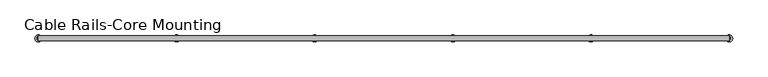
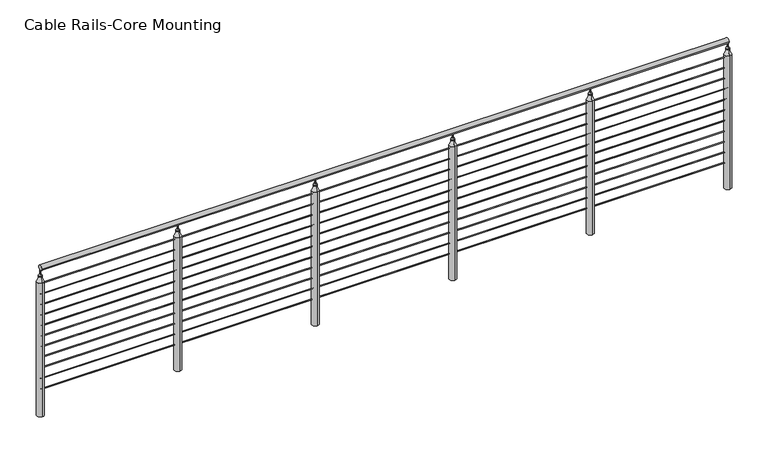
"""IFC4 building model written with IfcOpenShell, lengths in millimetres: railing geometry, Cable Rails-Core Mounting."""

from ifc_helpers import new_model, si_unit, point, frame, frame_2d, origin, place, context, project, spatial, circle_curve, ellipse_curve, trimmed, segment, composite_curve, outline, extrude, source, transform, mapped, element, save
from ifc_brep_helpers import plane_surface, cylinder_surface, revolved_surface, advanced_brep


def cable_rails_core_mounting_1b3b6cc5(model_context):
    return source(origin(), model_context, "Body", "SolidModel", [
        extrude(outline(composite_curve([segment(trimmed(circle_curve(frame_2d((-1356.8150713, 4140.2)), 19.05), [point((-1375.8650713, 4140.2))], [point((-1337.7650713, 4140.2))], False, "CARTESIAN"), True, "CONTINUOUS"), segment(trimmed(circle_curve(frame_2d((-1356.8150713, 4140.2)), 19.05), [point((-1337.7650713, 4140.2))], [point((-1375.8650713, 4140.2))], False, "CARTESIAN"), True, "CONTINUOUS")], self_intersect=False)), frame((-10554.5970616, 0.0, 0.0), z_axis=(1.0, 0.0, 0.0), x_axis=(0.0, 1.0, 0.0)), (0.0, 0.0, 1.0), 5080.0),
        extrude(outline(composite_curve([segment(trimmed(circle_curve(frame_2d((-1356.8150713, 4016.375)), 3.175), [point((-1359.9900713, 4016.375))], [point((-1353.6400713, 4016.375))], False, "CARTESIAN"), True, "CONTINUOUS"), segment(trimmed(circle_curve(frame_2d((-1356.8150713, 4016.375)), 3.175), [point((-1353.6400713, 4016.375))], [point((-1359.9900713, 4016.375))], False, "CARTESIAN"), True, "CONTINUOUS")], self_intersect=False)), frame((-10554.5970616, 0.0, 0.0), z_axis=(1.0, 0.0, 0.0), x_axis=(0.0, 1.0, 0.0)), (0.0, 0.0, 1.0), 5080.0),
        extrude(outline(composite_curve([segment(trimmed(circle_curve(frame_2d((-1356.8150713, 3933.825)), 3.175), [point((-1359.9900713, 3933.825))], [point((-1353.6400713, 3933.825))], False, "CARTESIAN"), True, "CONTINUOUS"), segment(trimmed(circle_curve(frame_2d((-1356.8150713, 3933.825)), 3.175), [point((-1353.6400713, 3933.825))], [point((-1359.9900713, 3933.825))], False, "CARTESIAN"), True, "CONTINUOUS")], self_intersect=False)), frame((-10554.5970616, 0.0, 0.0), z_axis=(1.0, 0.0, 0.0), x_axis=(0.0, 1.0, 0.0)), (0.0, 0.0, 1.0), 5080.0),
        extrude(outline(composite_curve([segment(trimmed(circle_curve(frame_2d((-1356.8150713, 3851.275)), 3.175), [point((-1359.9900713, 3851.275))], [point((-1353.6400713, 3851.275))], False, "CARTESIAN"), True, "CONTINUOUS"), segment(trimmed(circle_curve(frame_2d((-1356.8150713, 3851.275)), 3.175), [point((-1353.6400713, 3851.275))], [point((-1359.9900713, 3851.275))], False, "CARTESIAN"), True, "CONTINUOUS")], self_intersect=False)), frame((-10554.5970616, 0.0, 0.0), z_axis=(1.0, 0.0, 0.0), x_axis=(0.0, 1.0, 0.0)), (0.0, 0.0, 1.0), 5080.0),
        extrude(outline(composite_curve([segment(trimmed(circle_curve(frame_2d((-1356.8150713, 3768.725)), 3.175), [point((-1359.9900713, 3768.725))], [point((-1353.6400713, 3768.725))], False, "CARTESIAN"), True, "CONTINUOUS"), segment(trimmed(circle_curve(frame_2d((-1356.8150713, 3768.725)), 3.175), [point((-1353.6400713, 3768.725))], [point((-1359.9900713, 3768.725))], False, "CARTESIAN"), True, "CONTINUOUS")], self_intersect=False)), frame((-10554.5970616, 0.0, 0.0), z_axis=(1.0, 0.0, 0.0), x_axis=(0.0, 1.0, 0.0)), (0.0, 0.0, 1.0), 5080.0),
        extrude(outline(composite_curve([segment(trimmed(circle_curve(frame_2d((-1356.8150713, 3686.175)), 3.175), [point((-1359.9900713, 3686.175))], [point((-1353.6400713, 3686.175))], False, "CARTESIAN"), True, "CONTINUOUS"), segment(trimmed(circle_curve(frame_2d((-1356.8150713, 3686.175)), 3.175), [point((-1353.6400713, 3686.175))], [point((-1359.9900713, 3686.175))], False, "CARTESIAN"), True, "CONTINUOUS")], self_intersect=False)), frame((-10554.5970616, 0.0, 0.0), z_axis=(1.0, 0.0, 0.0), x_axis=(0.0, 1.0, 0.0)), (0.0, 0.0, 1.0), 5080.0),
        extrude(outline(composite_curve([segment(trimmed(circle_curve(frame_2d((-1356.8150713, 3603.625)), 3.175), [point((-1359.9900713, 3603.625))], [point((-1353.6400713, 3603.625))], False, "CARTESIAN"), True, "CONTINUOUS"), segment(trimmed(circle_curve(frame_2d((-1356.8150713, 3603.625)), 3.175), [point((-1353.6400713, 3603.625))], [point((-1359.9900713, 3603.625))], False, "CARTESIAN"), True, "CONTINUOUS")], self_intersect=False)), frame((-10554.5970616, 0.0, 0.0), z_axis=(1.0, 0.0, 0.0), x_axis=(0.0, 1.0, 0.0)), (0.0, 0.0, 1.0), 5080.0),
        extrude(outline(composite_curve([segment(trimmed(circle_curve(frame_2d((-1356.8150713, 3521.075)), 3.175), [point((-1359.9900713, 3521.075))], [point((-1353.6400713, 3521.075))], False, "CARTESIAN"), True, "CONTINUOUS"), segment(trimmed(circle_curve(frame_2d((-1356.8150713, 3521.075)), 3.175), [point((-1353.6400713, 3521.075))], [point((-1359.9900713, 3521.075))], False, "CARTESIAN"), True, "CONTINUOUS")], self_intersect=False)), frame((-10554.5970616, 0.0, 0.0), z_axis=(1.0, 0.0, 0.0), x_axis=(0.0, 1.0, 0.0)), (0.0, 0.0, 1.0), 5080.0),
        extrude(outline(composite_curve([segment(trimmed(circle_curve(frame_2d((-1356.8150713, 3438.525)), 3.175), [point((-1359.9900713, 3438.525))], [point((-1353.6400713, 3438.525))], False, "CARTESIAN"), True, "CONTINUOUS"), segment(trimmed(circle_curve(frame_2d((-1356.8150713, 3438.525)), 3.175), [point((-1353.6400713, 3438.525))], [point((-1359.9900713, 3438.525))], False, "CARTESIAN"), True, "CONTINUOUS")], self_intersect=False)), frame((-10554.5970616, 0.0, 0.0), z_axis=(1.0, 0.0, 0.0), x_axis=(0.0, 1.0, 0.0)), (0.0, 0.0, 1.0), 5080.0),
        extrude(outline(composite_curve([segment(trimmed(circle_curve(frame_2d((-1356.8150713, 3355.975)), 3.175), [point((-1359.9900713, 3355.975))], [point((-1353.6400713, 3355.975))], False, "CARTESIAN"), True, "CONTINUOUS"), segment(trimmed(circle_curve(frame_2d((-1356.8150713, 3355.975)), 3.175), [point((-1353.6400713, 3355.975))], [point((-1359.9900713, 3355.975))], False, "CARTESIAN"), True, "CONTINUOUS")], self_intersect=False)), frame((-10554.5970616, 0.0, 0.0), z_axis=(1.0, 0.0, 0.0), x_axis=(0.0, 1.0, 0.0)), (0.0, 0.0, 1.0), 5080.0),
        extrude(outline(composite_curve([segment(trimmed(circle_curve(frame_2d((-1356.8150713, 3273.425)), 3.175), [point((-1359.9900713, 3273.425))], [point((-1353.6400713, 3273.425))], False, "CARTESIAN"), True, "CONTINUOUS"), segment(trimmed(circle_curve(frame_2d((-1356.8150713, 3273.425)), 3.175), [point((-1353.6400713, 3273.425))], [point((-1359.9900713, 3273.425))], False, "CARTESIAN"), True, "CONTINUOUS")], self_intersect=False)), frame((-10554.5970616, 0.0, 0.0), z_axis=(1.0, 0.0, 0.0), x_axis=(0.0, 1.0, 0.0)), (0.0, 0.0, 1.0), 5080.0),
        extrude(outline(composite_curve([segment(trimmed(circle_curve(frame_2d((-1356.8150713, 3190.875)), 3.175), [point((-1359.9900713, 3190.875))], [point((-1353.6400713, 3190.875))], False, "CARTESIAN"), True, "CONTINUOUS"), segment(trimmed(circle_curve(frame_2d((-1356.8150713, 3190.875)), 3.175), [point((-1353.6400713, 3190.875))], [point((-1359.9900713, 3190.875))], False, "CARTESIAN"), True, "CONTINUOUS")], self_intersect=False)), frame((-10554.5970616, 0.0, 0.0), z_axis=(1.0, 0.0, 0.0), x_axis=(0.0, 1.0, 0.0)), (0.0, 0.0, 1.0), 5080.0),
        advanced_brep(
        [(-6490.2001866, -1331.4156735, 4033.5847854), (-6490.2001866, -1331.4156735, 2990.85), (-6490.2001866, -1382.2144691, 2990.85), (-6490.2001866, -1382.2144691, 4033.5847854), (-6490.2001866, -1344.0771027, 4071.7986202), (-6490.2001866, -1369.5530398, 4071.7986202), (-6490.2001866, -1344.0771027, 4080.7816777), (-6490.2001866, -1369.5530398, 4080.7816777), (-6490.2001866, -1353.215569, 4089.7402749), (-6490.2001866, -1360.4145735, 4089.7402749), (-6490.2001866, -1353.215569, 4121.15), (-6490.2001866, -1360.4145735, 4121.15), (-6490.2001866, -1356.8150713, 4121.15), (-6490.2001866, -1356.8150713, 2990.85)],
        [
            (0, 1),
            (1, 2, circle_curve(frame((-6490.2001866, -1356.8150713, 2990.85), z_axis=(0.0, 0.0, 1.0), x_axis=(0.0, -1.0, 0.0)), 25.3993978)),
            (2, 3),
            (3, 0, circle_curve(frame((-6490.2001866, -1356.8150713, 4033.5847854), z_axis=(0.0, 0.0, -1.0), x_axis=(0.0, -1.0, 0.0)), 25.3993978)),
            (2, 1, circle_curve(frame((-6490.2001866, -1356.8150713, 2990.85), z_axis=(0.0, 0.0, 1.0), x_axis=(0.0, -1.0, 0.0)), 25.3993978)),
            (0, 3, circle_curve(frame((-6490.2001866, -1356.8150713, 4033.5847854), z_axis=(0.0, 0.0, -1.0), x_axis=(0.0, -1.0, 0.0)), 25.3993978)),
            (4, 0, circle_curve(frame((-6490.2001866, -1280.0792344, 4071.7986202), z_axis=(1.0, 0.0, 0.0), x_axis=(0.0, 1.0, 0.0)), 63.9978683)),
            (3, 5, circle_curve(frame((-6490.2001866, -1433.5509081, 4071.7986202), z_axis=(1.0, 0.0, 0.0), x_axis=(0.0, -1.0, 0.0)), 63.9978683)),
            (5, 4, circle_curve(frame((-6490.2001866, -1356.8150713, 4071.7986202), z_axis=(0.0, 0.0, -1.0), x_axis=(0.0, -1.0, 0.0)), 12.7379685)),
            (4, 5, circle_curve(frame((-6490.2001866, -1356.8150713, 4071.7986202), z_axis=(0.0, 0.0, -1.0), x_axis=(0.0, -1.0, 0.0)), 12.7379685)),
            (6, 4),
            (5, 7),
            (7, 6, circle_curve(frame((-6490.2001866, -1356.8150713, 4080.7816777), z_axis=(0.0, 0.0, -1.0), x_axis=(0.0, -1.0, 0.0)), 12.7379685)),
            (6, 7, circle_curve(frame((-6490.2001866, -1356.8150713, 4080.7816777), z_axis=(0.0, 0.0, -1.0), x_axis=(0.0, -1.0, 0.0)), 12.7379685)),
            (8, 6, circle_curve(frame((-6490.2001866, -1356.8551971, 4076.8872989), z_axis=(-1.0, 0.0, 0.0), x_axis=(0.0, 1.0, 0.0)), 13.3583638)),
            (7, 9, circle_curve(frame((-6490.2001866, -1356.7749454, 4076.8872989), z_axis=(-1.0, 0.0, 0.0), x_axis=(0.0, -1.0, 0.0)), 13.3583638)),
            (9, 8, circle_curve(frame((-6490.2001866, -1356.8150713, 4089.7402749), z_axis=(0.0, 0.0, -1.0), x_axis=(0.0, -1.0, 0.0)), 3.5995022)),
            (8, 9, circle_curve(frame((-6490.2001866, -1356.8150713, 4089.7402749), z_axis=(0.0, 0.0, -1.0), x_axis=(0.0, -1.0, 0.0)), 3.5995022)),
            (10, 8),
            (9, 11),
            (11, 10, circle_curve(frame((-6490.2001866, -1356.8150713, 4121.15), z_axis=(0.0, 0.0, -1.0), x_axis=(0.0, -1.0, 0.0)), 3.5995022)),
            (10, 11, circle_curve(frame((-6490.2001866, -1356.8150713, 4121.15), z_axis=(0.0, 0.0, -1.0), x_axis=(0.0, -1.0, 0.0)), 3.5995022)),
            (12, 10),
            (11, 12),
            (1, 13),
            (13, 2),
        ],
        [
            cylinder_surface(frame((-6490.2001866, -1356.8150713, 4197.35), z_axis=(0.0, 0.0, 1.0), x_axis=(0.0, -1.0, 0.0)), 25.3993978),
            revolved_surface(trimmed(ellipse_curve(frame((-6490.2001866, -1433.5509081, 4071.7986202), z_axis=(1.0, 0.0, 0.0), x_axis=(0.0, -1.0, 0.0)), 63.9978683, 63.9978683), [point((-6490.2001866, -1382.2144691, 4033.5847854))], [point((-6490.2001866, -1369.5530398, 4071.7986202))], True, "CARTESIAN"), (-6490.2001866, -1356.8150713, 4197.35), (0.0, 0.0, 1.0)),
            cylinder_surface(frame((-6490.2001866, -1356.8150713, 4197.35), z_axis=(0.0, 0.0, 1.0), x_axis=(0.0, -1.0, 0.0)), 12.7379685),
            revolved_surface(trimmed(ellipse_curve(frame((-6490.2001866, -1356.7749454, 4076.8872989), z_axis=(-1.0, 0.0, 0.0), x_axis=(0.0, -1.0, 0.0)), 13.3583638, 13.3583638), [point((-6490.2001866, -1369.5530398, 4080.7816777))], [point((-6490.2001866, -1360.4145735, 4089.7402749))], True, "CARTESIAN"), (-6490.2001866, -1356.8150713, 4197.35), (0.0, 0.0, 1.0)),
            cylinder_surface(frame((-6490.2001866, -1356.8150713, 4197.35), z_axis=(0.0, 0.0, 1.0), x_axis=(0.0, -1.0, 0.0)), 3.5995022),
            plane_surface(frame((-6490.2001866, -1356.8150713, 4121.15), z_axis=(0.0, 0.0, 1.0), x_axis=(0.0, -1.0, 0.0))),
            plane_surface(frame((-6490.2001866, -1356.8150713, 2990.85), z_axis=(0.0, 0.0, -1.0), x_axis=(0.0, -1.0, 0.0))),
        ],
        [
            (0, [[1, 2, 3, 4]]),
            (0, [[-3, 5, -1, 6]]),
            (1, [[7, -4, 8, 9]]),
            (1, [[-8, -6, -7, 10]]),
            (2, [[11, -9, 12, 13]]),
            (2, [[-12, -10, -11, 14]]),
            (3, [[15, -13, 16, 17]]),
            (3, [[-16, -14, -15, 18]]),
            (4, [[19, -17, 20, 21]]),
            (4, [[-20, -18, -19, 22]]),
            (5, [[23, -21, 24]]),
            (5, [[-24, -22, -23]]),
            (6, [[25, 26, -2]]),
            (6, [[-26, -25, -5]]),
        ],
    ),
        advanced_brep(
        [(-7506.2001866, -1331.4156735, 4033.5847854), (-7506.2001866, -1331.4156735, 2990.85), (-7506.2001866, -1382.2144691, 2990.85), (-7506.2001866, -1382.2144691, 4033.5847854), (-7506.2001866, -1344.0771027, 4071.7986202), (-7506.2001866, -1369.5530398, 4071.7986202), (-7506.2001866, -1344.0771027, 4080.7816777), (-7506.2001866, -1369.5530398, 4080.7816777), (-7506.2001866, -1353.215569, 4089.7402749), (-7506.2001866, -1360.4145735, 4089.7402749), (-7506.2001866, -1353.215569, 4121.15), (-7506.2001866, -1360.4145735, 4121.15), (-7506.2001866, -1356.8150713, 4121.15), (-7506.2001866, -1356.8150713, 2990.85)],
        [
            (0, 1),
            (1, 2, circle_curve(frame((-7506.2001866, -1356.8150713, 2990.85), z_axis=(0.0, 0.0, 1.0), x_axis=(0.0, -1.0, 0.0)), 25.3993978)),
            (2, 3),
            (3, 0, circle_curve(frame((-7506.2001866, -1356.8150713, 4033.5847854), z_axis=(0.0, 0.0, -1.0), x_axis=(0.0, -1.0, 0.0)), 25.3993978)),
            (2, 1, circle_curve(frame((-7506.2001866, -1356.8150713, 2990.85), z_axis=(0.0, 0.0, 1.0), x_axis=(0.0, -1.0, 0.0)), 25.3993978)),
            (0, 3, circle_curve(frame((-7506.2001866, -1356.8150713, 4033.5847854), z_axis=(0.0, 0.0, -1.0), x_axis=(0.0, -1.0, 0.0)), 25.3993978)),
            (4, 0, circle_curve(frame((-7506.2001866, -1280.0792344, 4071.7986202), z_axis=(1.0, 0.0, 0.0), x_axis=(0.0, 1.0, 0.0)), 63.9978683)),
            (3, 5, circle_curve(frame((-7506.2001866, -1433.5509081, 4071.7986202), z_axis=(1.0, 0.0, 0.0), x_axis=(0.0, -1.0, 0.0)), 63.9978683)),
            (5, 4, circle_curve(frame((-7506.2001866, -1356.8150713, 4071.7986202), z_axis=(0.0, 0.0, -1.0), x_axis=(0.0, -1.0, 0.0)), 12.7379685)),
            (4, 5, circle_curve(frame((-7506.2001866, -1356.8150713, 4071.7986202), z_axis=(0.0, 0.0, -1.0), x_axis=(0.0, -1.0, 0.0)), 12.7379685)),
            (6, 4),
            (5, 7),
            (7, 6, circle_curve(frame((-7506.2001866, -1356.8150713, 4080.7816777), z_axis=(0.0, 0.0, -1.0), x_axis=(0.0, -1.0, 0.0)), 12.7379685)),
            (6, 7, circle_curve(frame((-7506.2001866, -1356.8150713, 4080.7816777), z_axis=(0.0, 0.0, -1.0), x_axis=(0.0, -1.0, 0.0)), 12.7379685)),
            (8, 6, circle_curve(frame((-7506.2001866, -1356.8551971, 4076.8872989), z_axis=(-1.0, 0.0, 0.0), x_axis=(0.0, 1.0, 0.0)), 13.3583638)),
            (7, 9, circle_curve(frame((-7506.2001866, -1356.7749454, 4076.8872989), z_axis=(-1.0, 0.0, 0.0), x_axis=(0.0, -1.0, 0.0)), 13.3583638)),
            (9, 8, circle_curve(frame((-7506.2001866, -1356.8150713, 4089.7402749), z_axis=(0.0, 0.0, -1.0), x_axis=(0.0, -1.0, 0.0)), 3.5995022)),
            (8, 9, circle_curve(frame((-7506.2001866, -1356.8150713, 4089.7402749), z_axis=(0.0, 0.0, -1.0), x_axis=(0.0, -1.0, 0.0)), 3.5995022)),
            (10, 8),
            (9, 11),
            (11, 10, circle_curve(frame((-7506.2001866, -1356.8150713, 4121.15), z_axis=(0.0, 0.0, -1.0), x_axis=(0.0, -1.0, 0.0)), 3.5995022)),
            (10, 11, circle_curve(frame((-7506.2001866, -1356.8150713, 4121.15), z_axis=(0.0, 0.0, -1.0), x_axis=(0.0, -1.0, 0.0)), 3.5995022)),
            (12, 10),
            (11, 12),
            (1, 13),
            (13, 2),
        ],
        [
            cylinder_surface(frame((-7506.2001866, -1356.8150713, 4197.35), z_axis=(0.0, 0.0, 1.0), x_axis=(0.0, -1.0, 0.0)), 25.3993978),
            revolved_surface(trimmed(ellipse_curve(frame((-7506.2001866, -1433.5509081, 4071.7986202), z_axis=(1.0, 0.0, 0.0), x_axis=(0.0, -1.0, 0.0)), 63.9978683, 63.9978683), [point((-7506.2001866, -1382.2144691, 4033.5847854))], [point((-7506.2001866, -1369.5530398, 4071.7986202))], True, "CARTESIAN"), (-7506.2001866, -1356.8150713, 4197.35), (0.0, 0.0, 1.0)),
            cylinder_surface(frame((-7506.2001866, -1356.8150713, 4197.35), z_axis=(0.0, 0.0, 1.0), x_axis=(0.0, -1.0, 0.0)), 12.7379685),
            revolved_surface(trimmed(ellipse_curve(frame((-7506.2001866, -1356.7749454, 4076.8872989), z_axis=(-1.0, 0.0, 0.0), x_axis=(0.0, -1.0, 0.0)), 13.3583638, 13.3583638), [point((-7506.2001866, -1369.5530398, 4080.7816777))], [point((-7506.2001866, -1360.4145735, 4089.7402749))], True, "CARTESIAN"), (-7506.2001866, -1356.8150713, 4197.35), (0.0, 0.0, 1.0)),
            cylinder_surface(frame((-7506.2001866, -1356.8150713, 4197.35), z_axis=(0.0, 0.0, 1.0), x_axis=(0.0, -1.0, 0.0)), 3.5995022),
            plane_surface(frame((-7506.2001866, -1356.8150713, 4121.15), z_axis=(0.0, 0.0, 1.0), x_axis=(0.0, -1.0, 0.0))),
            plane_surface(frame((-7506.2001866, -1356.8150713, 2990.85), z_axis=(0.0, 0.0, -1.0), x_axis=(0.0, -1.0, 0.0))),
        ],
        [
            (0, [[1, 2, 3, 4]]),
            (0, [[-3, 5, -1, 6]]),
            (1, [[7, -4, 8, 9]]),
            (1, [[-8, -6, -7, 10]]),
            (2, [[11, -9, 12, 13]]),
            (2, [[-12, -10, -11, 14]]),
            (3, [[15, -13, 16, 17]]),
            (3, [[-16, -14, -15, 18]]),
            (4, [[19, -17, 20, 21]]),
            (4, [[-20, -18, -19, 22]]),
            (5, [[23, -21, 24]]),
            (5, [[-24, -22, -23]]),
            (6, [[25, 26, -2]]),
            (6, [[-26, -25, -5]]),
        ],
    ),
        advanced_brep(
        [(-8522.2001866, -1331.4156735, 4033.5847854), (-8522.2001866, -1331.4156735, 2990.85), (-8522.2001866, -1382.2144691, 2990.85), (-8522.2001866, -1382.2144691, 4033.5847854), (-8522.2001866, -1344.0771027, 4071.7986202), (-8522.2001866, -1369.5530398, 4071.7986202), (-8522.2001866, -1344.0771027, 4080.7816777), (-8522.2001866, -1369.5530398, 4080.7816777), (-8522.2001866, -1353.215569, 4089.7402749), (-8522.2001866, -1360.4145735, 4089.7402749), (-8522.2001866, -1353.215569, 4121.15), (-8522.2001866, -1360.4145735, 4121.15), (-8522.2001866, -1356.8150713, 4121.15), (-8522.2001866, -1356.8150713, 2990.85)],
        [
            (0, 1),
            (1, 2, circle_curve(frame((-8522.2001866, -1356.8150713, 2990.85), z_axis=(0.0, 0.0, 1.0), x_axis=(0.0, -1.0, 0.0)), 25.3993978)),
            (2, 3),
            (3, 0, circle_curve(frame((-8522.2001866, -1356.8150713, 4033.5847854), z_axis=(0.0, 0.0, -1.0), x_axis=(0.0, -1.0, 0.0)), 25.3993978)),
            (2, 1, circle_curve(frame((-8522.2001866, -1356.8150713, 2990.85), z_axis=(0.0, 0.0, 1.0), x_axis=(0.0, -1.0, 0.0)), 25.3993978)),
            (0, 3, circle_curve(frame((-8522.2001866, -1356.8150713, 4033.5847854), z_axis=(0.0, 0.0, -1.0), x_axis=(0.0, -1.0, 0.0)), 25.3993978)),
            (4, 0, circle_curve(frame((-8522.2001866, -1280.0792344, 4071.7986202), z_axis=(1.0, 0.0, 0.0), x_axis=(0.0, 1.0, 0.0)), 63.9978683)),
            (3, 5, circle_curve(frame((-8522.2001866, -1433.5509081, 4071.7986202), z_axis=(1.0, 0.0, 0.0), x_axis=(0.0, -1.0, 0.0)), 63.9978683)),
            (5, 4, circle_curve(frame((-8522.2001866, -1356.8150713, 4071.7986202), z_axis=(0.0, 0.0, -1.0), x_axis=(0.0, -1.0, 0.0)), 12.7379685)),
            (4, 5, circle_curve(frame((-8522.2001866, -1356.8150713, 4071.7986202), z_axis=(0.0, 0.0, -1.0), x_axis=(0.0, -1.0, 0.0)), 12.7379685)),
            (6, 4),
            (5, 7),
            (7, 6, circle_curve(frame((-8522.2001866, -1356.8150713, 4080.7816777), z_axis=(0.0, 0.0, -1.0), x_axis=(0.0, -1.0, 0.0)), 12.7379685)),
            (6, 7, circle_curve(frame((-8522.2001866, -1356.8150713, 4080.7816777), z_axis=(0.0, 0.0, -1.0), x_axis=(0.0, -1.0, 0.0)), 12.7379685)),
            (8, 6, circle_curve(frame((-8522.2001866, -1356.8551971, 4076.8872989), z_axis=(-1.0, 0.0, 0.0), x_axis=(0.0, 1.0, 0.0)), 13.3583638)),
            (7, 9, circle_curve(frame((-8522.2001866, -1356.7749454, 4076.8872989), z_axis=(-1.0, 0.0, 0.0), x_axis=(0.0, -1.0, 0.0)), 13.3583638)),
            (9, 8, circle_curve(frame((-8522.2001866, -1356.8150713, 4089.7402749), z_axis=(0.0, 0.0, -1.0), x_axis=(0.0, -1.0, 0.0)), 3.5995022)),
            (8, 9, circle_curve(frame((-8522.2001866, -1356.8150713, 4089.7402749), z_axis=(0.0, 0.0, -1.0), x_axis=(0.0, -1.0, 0.0)), 3.5995022)),
            (10, 8),
            (9, 11),
            (11, 10, circle_curve(frame((-8522.2001866, -1356.8150713, 4121.15), z_axis=(0.0, 0.0, -1.0), x_axis=(0.0, -1.0, 0.0)), 3.5995022)),
            (10, 11, circle_curve(frame((-8522.2001866, -1356.8150713, 4121.15), z_axis=(0.0, 0.0, -1.0), x_axis=(0.0, -1.0, 0.0)), 3.5995022)),
            (12, 10),
            (11, 12),
            (1, 13),
            (13, 2),
        ],
        [
            cylinder_surface(frame((-8522.2001866, -1356.8150713, 4197.35), z_axis=(0.0, 0.0, 1.0), x_axis=(0.0, -1.0, 0.0)), 25.3993978),
            revolved_surface(trimmed(ellipse_curve(frame((-8522.2001866, -1433.5509081, 4071.7986202), z_axis=(1.0, 0.0, 0.0), x_axis=(0.0, -1.0, 0.0)), 63.9978683, 63.9978683), [point((-8522.2001866, -1382.2144691, 4033.5847854))], [point((-8522.2001866, -1369.5530398, 4071.7986202))], True, "CARTESIAN"), (-8522.2001866, -1356.8150713, 4197.35), (0.0, 0.0, 1.0)),
            cylinder_surface(frame((-8522.2001866, -1356.8150713, 4197.35), z_axis=(0.0, 0.0, 1.0), x_axis=(0.0, -1.0, 0.0)), 12.7379685),
            revolved_surface(trimmed(ellipse_curve(frame((-8522.2001866, -1356.7749454, 4076.8872989), z_axis=(-1.0, 0.0, 0.0), x_axis=(0.0, -1.0, 0.0)), 13.3583638, 13.3583638), [point((-8522.2001866, -1369.5530398, 4080.7816777))], [point((-8522.2001866, -1360.4145735, 4089.7402749))], True, "CARTESIAN"), (-8522.2001866, -1356.8150713, 4197.35), (0.0, 0.0, 1.0)),
            cylinder_surface(frame((-8522.2001866, -1356.8150713, 4197.35), z_axis=(0.0, 0.0, 1.0), x_axis=(0.0, -1.0, 0.0)), 3.5995022),
            plane_surface(frame((-8522.2001866, -1356.8150713, 4121.15), z_axis=(0.0, 0.0, 1.0), x_axis=(0.0, -1.0, 0.0))),
            plane_surface(frame((-8522.2001866, -1356.8150713, 2990.85), z_axis=(0.0, 0.0, -1.0), x_axis=(0.0, -1.0, 0.0))),
        ],
        [
            (0, [[1, 2, 3, 4]]),
            (0, [[-3, 5, -1, 6]]),
            (1, [[7, -4, 8, 9]]),
            (1, [[-8, -6, -7, 10]]),
            (2, [[11, -9, 12, 13]]),
            (2, [[-12, -10, -11, 14]]),
            (3, [[15, -13, 16, 17]]),
            (3, [[-16, -14, -15, 18]]),
            (4, [[19, -17, 20, 21]]),
            (4, [[-20, -18, -19, 22]]),
            (5, [[23, -21, 24]]),
            (5, [[-24, -22, -23]]),
            (6, [[25, 26, -2]]),
            (6, [[-26, -25, -5]]),
        ],
    ),
        advanced_brep(
        [(-9538.2001866, -1331.4156735, 4033.5847854), (-9538.2001866, -1331.4156735, 2990.85), (-9538.2001866, -1382.2144691, 2990.85), (-9538.2001866, -1382.2144691, 4033.5847854), (-9538.2001866, -1344.0771027, 4071.7986202), (-9538.2001866, -1369.5530398, 4071.7986202), (-9538.2001866, -1344.0771027, 4080.7816777), (-9538.2001866, -1369.5530398, 4080.7816777), (-9538.2001866, -1353.215569, 4089.7402749), (-9538.2001866, -1360.4145735, 4089.7402749), (-9538.2001866, -1353.215569, 4121.15), (-9538.2001866, -1360.4145735, 4121.15), (-9538.2001866, -1356.8150713, 4121.15), (-9538.2001866, -1356.8150713, 2990.85)],
        [
            (0, 1),
            (1, 2, circle_curve(frame((-9538.2001866, -1356.8150713, 2990.85), z_axis=(0.0, 0.0, 1.0), x_axis=(0.0, -1.0, 0.0)), 25.3993978)),
            (2, 3),
            (3, 0, circle_curve(frame((-9538.2001866, -1356.8150713, 4033.5847854), z_axis=(0.0, 0.0, -1.0), x_axis=(0.0, -1.0, 0.0)), 25.3993978)),
            (2, 1, circle_curve(frame((-9538.2001866, -1356.8150713, 2990.85), z_axis=(0.0, 0.0, 1.0), x_axis=(0.0, -1.0, 0.0)), 25.3993978)),
            (0, 3, circle_curve(frame((-9538.2001866, -1356.8150713, 4033.5847854), z_axis=(0.0, 0.0, -1.0), x_axis=(0.0, -1.0, 0.0)), 25.3993978)),
            (4, 0, circle_curve(frame((-9538.2001866, -1280.0792344, 4071.7986202), z_axis=(1.0, 0.0, 0.0), x_axis=(0.0, 1.0, 0.0)), 63.9978683)),
            (3, 5, circle_curve(frame((-9538.2001866, -1433.5509081, 4071.7986202), z_axis=(1.0, 0.0, 0.0), x_axis=(0.0, -1.0, 0.0)), 63.9978683)),
            (5, 4, circle_curve(frame((-9538.2001866, -1356.8150713, 4071.7986202), z_axis=(0.0, 0.0, -1.0), x_axis=(0.0, -1.0, 0.0)), 12.7379685)),
            (4, 5, circle_curve(frame((-9538.2001866, -1356.8150713, 4071.7986202), z_axis=(0.0, 0.0, -1.0), x_axis=(0.0, -1.0, 0.0)), 12.7379685)),
            (6, 4),
            (5, 7),
            (7, 6, circle_curve(frame((-9538.2001866, -1356.8150713, 4080.7816777), z_axis=(0.0, 0.0, -1.0), x_axis=(0.0, -1.0, 0.0)), 12.7379685)),
            (6, 7, circle_curve(frame((-9538.2001866, -1356.8150713, 4080.7816777), z_axis=(0.0, 0.0, -1.0), x_axis=(0.0, -1.0, 0.0)), 12.7379685)),
            (8, 6, circle_curve(frame((-9538.2001866, -1356.8551971, 4076.8872989), z_axis=(-1.0, 0.0, 0.0), x_axis=(0.0, 1.0, 0.0)), 13.3583638)),
            (7, 9, circle_curve(frame((-9538.2001866, -1356.7749454, 4076.8872989), z_axis=(-1.0, 0.0, 0.0), x_axis=(0.0, -1.0, 0.0)), 13.3583638)),
            (9, 8, circle_curve(frame((-9538.2001866, -1356.8150713, 4089.7402749), z_axis=(0.0, 0.0, -1.0), x_axis=(0.0, -1.0, 0.0)), 3.5995022)),
            (8, 9, circle_curve(frame((-9538.2001866, -1356.8150713, 4089.7402749), z_axis=(0.0, 0.0, -1.0), x_axis=(0.0, -1.0, 0.0)), 3.5995022)),
            (10, 8),
            (9, 11),
            (11, 10, circle_curve(frame((-9538.2001866, -1356.8150713, 4121.15), z_axis=(0.0, 0.0, -1.0), x_axis=(0.0, -1.0, 0.0)), 3.5995022)),
            (10, 11, circle_curve(frame((-9538.2001866, -1356.8150713, 4121.15), z_axis=(0.0, 0.0, -1.0), x_axis=(0.0, -1.0, 0.0)), 3.5995022)),
            (12, 10),
            (11, 12),
            (1, 13),
            (13, 2),
        ],
        [
            cylinder_surface(frame((-9538.2001866, -1356.8150713, 4197.35), z_axis=(0.0, 0.0, 1.0), x_axis=(0.0, -1.0, 0.0)), 25.3993978),
            revolved_surface(trimmed(ellipse_curve(frame((-9538.2001866, -1433.5509081, 4071.7986202), z_axis=(1.0, 0.0, 0.0), x_axis=(0.0, -1.0, 0.0)), 63.9978683, 63.9978683), [point((-9538.2001866, -1382.2144691, 4033.5847854))], [point((-9538.2001866, -1369.5530398, 4071.7986202))], True, "CARTESIAN"), (-9538.2001866, -1356.8150713, 4197.35), (0.0, 0.0, 1.0)),
            cylinder_surface(frame((-9538.2001866, -1356.8150713, 4197.35), z_axis=(0.0, 0.0, 1.0), x_axis=(0.0, -1.0, 0.0)), 12.7379685),
            revolved_surface(trimmed(ellipse_curve(frame((-9538.2001866, -1356.7749454, 4076.8872989), z_axis=(-1.0, 0.0, 0.0), x_axis=(0.0, -1.0, 0.0)), 13.3583638, 13.3583638), [point((-9538.2001866, -1369.5530398, 4080.7816777))], [point((-9538.2001866, -1360.4145735, 4089.7402749))], True, "CARTESIAN"), (-9538.2001866, -1356.8150713, 4197.35), (0.0, 0.0, 1.0)),
            cylinder_surface(frame((-9538.2001866, -1356.8150713, 4197.35), z_axis=(0.0, 0.0, 1.0), x_axis=(0.0, -1.0, 0.0)), 3.5995022),
            plane_surface(frame((-9538.2001866, -1356.8150713, 4121.15), z_axis=(0.0, 0.0, 1.0), x_axis=(0.0, -1.0, 0.0))),
            plane_surface(frame((-9538.2001866, -1356.8150713, 2990.85), z_axis=(0.0, 0.0, -1.0), x_axis=(0.0, -1.0, 0.0))),
        ],
        [
            (0, [[1, 2, 3, 4]]),
            (0, [[-3, 5, -1, 6]]),
            (1, [[7, -4, 8, 9]]),
            (1, [[-8, -6, -7, 10]]),
            (2, [[11, -9, 12, 13]]),
            (2, [[-12, -10, -11, 14]]),
            (3, [[15, -13, 16, 17]]),
            (3, [[-16, -14, -15, 18]]),
            (4, [[19, -17, 20, 21]]),
            (4, [[-20, -18, -19, 22]]),
            (5, [[23, -21, 24]]),
            (5, [[-24, -22, -23]]),
            (6, [[25, 26, -2]]),
            (6, [[-26, -25, -5]]),
        ],
    ),
        advanced_brep(
        [(-5474.2001866, -1331.4156735, 4033.5847854), (-5474.2001866, -1331.4156735, 2990.85), (-5474.2001866, -1382.2144691, 2990.85), (-5474.2001866, -1382.2144691, 4033.5847854), (-5474.2001866, -1344.0771027, 4071.7986202), (-5474.2001866, -1369.5530398, 4071.7986202), (-5474.2001866, -1344.0771027, 4080.7816777), (-5474.2001866, -1369.5530398, 4080.7816777), (-5474.2001866, -1353.215569, 4089.7402749), (-5474.2001866, -1360.4145735, 4089.7402749), (-5474.2001866, -1353.215569, 4121.15), (-5474.2001866, -1360.4145735, 4121.15), (-5474.2001866, -1356.8150713, 4121.15), (-5474.2001866, -1356.8150713, 2990.85)],
        [
            (0, 1),
            (1, 2, circle_curve(frame((-5474.2001866, -1356.8150713, 2990.85), z_axis=(0.0, 0.0, 1.0), x_axis=(0.0, -1.0, 0.0)), 25.3993978)),
            (2, 3),
            (3, 0, circle_curve(frame((-5474.2001866, -1356.8150713, 4033.5847854), z_axis=(0.0, 0.0, -1.0), x_axis=(0.0, -1.0, 0.0)), 25.3993978)),
            (2, 1, circle_curve(frame((-5474.2001866, -1356.8150713, 2990.85), z_axis=(0.0, 0.0, 1.0), x_axis=(0.0, -1.0, 0.0)), 25.3993978)),
            (0, 3, circle_curve(frame((-5474.2001866, -1356.8150713, 4033.5847854), z_axis=(0.0, 0.0, -1.0), x_axis=(0.0, -1.0, 0.0)), 25.3993978)),
            (4, 0, circle_curve(frame((-5474.2001866, -1280.0792344, 4071.7986202), z_axis=(1.0, 0.0, 0.0), x_axis=(0.0, 1.0, 0.0)), 63.9978683)),
            (3, 5, circle_curve(frame((-5474.2001866, -1433.5509081, 4071.7986202), z_axis=(1.0, 0.0, 0.0), x_axis=(0.0, -1.0, 0.0)), 63.9978683)),
            (5, 4, circle_curve(frame((-5474.2001866, -1356.8150713, 4071.7986202), z_axis=(0.0, 0.0, -1.0), x_axis=(0.0, -1.0, 0.0)), 12.7379685)),
            (4, 5, circle_curve(frame((-5474.2001866, -1356.8150713, 4071.7986202), z_axis=(0.0, 0.0, -1.0), x_axis=(0.0, -1.0, 0.0)), 12.7379685)),
            (6, 4),
            (5, 7),
            (7, 6, circle_curve(frame((-5474.2001866, -1356.8150713, 4080.7816777), z_axis=(0.0, 0.0, -1.0), x_axis=(0.0, -1.0, 0.0)), 12.7379685)),
            (6, 7, circle_curve(frame((-5474.2001866, -1356.8150713, 4080.7816777), z_axis=(0.0, 0.0, -1.0), x_axis=(0.0, -1.0, 0.0)), 12.7379685)),
            (8, 6, circle_curve(frame((-5474.2001866, -1356.8551971, 4076.8872989), z_axis=(-1.0, 0.0, 0.0), x_axis=(0.0, 1.0, 0.0)), 13.3583638)),
            (7, 9, circle_curve(frame((-5474.2001866, -1356.7749454, 4076.8872989), z_axis=(-1.0, 0.0, 0.0), x_axis=(0.0, -1.0, 0.0)), 13.3583638)),
            (9, 8, circle_curve(frame((-5474.2001866, -1356.8150713, 4089.7402749), z_axis=(0.0, 0.0, -1.0), x_axis=(0.0, -1.0, 0.0)), 3.5995022)),
            (8, 9, circle_curve(frame((-5474.2001866, -1356.8150713, 4089.7402749), z_axis=(0.0, 0.0, -1.0), x_axis=(0.0, -1.0, 0.0)), 3.5995022)),
            (10, 8),
            (9, 11),
            (11, 10, circle_curve(frame((-5474.2001866, -1356.8150713, 4121.15), z_axis=(0.0, 0.0, -1.0), x_axis=(0.0, -1.0, 0.0)), 3.5995022)),
            (10, 11, circle_curve(frame((-5474.2001866, -1356.8150713, 4121.15), z_axis=(0.0, 0.0, -1.0), x_axis=(0.0, -1.0, 0.0)), 3.5995022)),
            (12, 10),
            (11, 12),
            (1, 13),
            (13, 2),
        ],
        [
            cylinder_surface(frame((-5474.2001866, -1356.8150713, 4197.35), z_axis=(0.0, 0.0, 1.0), x_axis=(0.0, -1.0, 0.0)), 25.3993978),
            revolved_surface(trimmed(ellipse_curve(frame((-5474.2001866, -1433.5509081, 4071.7986202), z_axis=(1.0, 0.0, 0.0), x_axis=(0.0, -1.0, 0.0)), 63.9978683, 63.9978683), [point((-5474.2001866, -1382.2144691, 4033.5847854))], [point((-5474.2001866, -1369.5530398, 4071.7986202))], True, "CARTESIAN"), (-5474.2001866, -1356.8150713, 4197.35), (0.0, 0.0, 1.0)),
            cylinder_surface(frame((-5474.2001866, -1356.8150713, 4197.35), z_axis=(0.0, 0.0, 1.0), x_axis=(0.0, -1.0, 0.0)), 12.7379685),
            revolved_surface(trimmed(ellipse_curve(frame((-5474.2001866, -1356.7749454, 4076.8872989), z_axis=(-1.0, 0.0, 0.0), x_axis=(0.0, -1.0, 0.0)), 13.3583638, 13.3583638), [point((-5474.2001866, -1369.5530398, 4080.7816777))], [point((-5474.2001866, -1360.4145735, 4089.7402749))], True, "CARTESIAN"), (-5474.2001866, -1356.8150713, 4197.35), (0.0, 0.0, 1.0)),
            cylinder_surface(frame((-5474.2001866, -1356.8150713, 4197.35), z_axis=(0.0, 0.0, 1.0), x_axis=(0.0, -1.0, 0.0)), 3.5995022),
            plane_surface(frame((-5474.2001866, -1356.8150713, 4121.15), z_axis=(0.0, 0.0, 1.0), x_axis=(0.0, -1.0, 0.0))),
            plane_surface(frame((-5474.2001866, -1356.8150713, 2990.85), z_axis=(0.0, 0.0, -1.0), x_axis=(0.0, -1.0, 0.0))),
        ],
        [
            (0, [[1, 2, 3, 4]]),
            (0, [[-3, 5, -1, 6]]),
            (1, [[7, -4, 8, 9]]),
            (1, [[-8, -6, -7, 10]]),
            (2, [[11, -9, 12, 13]]),
            (2, [[-12, -10, -11, 14]]),
            (3, [[15, -13, 16, 17]]),
            (3, [[-16, -14, -15, 18]]),
            (4, [[19, -17, 20, 21]]),
            (4, [[-20, -18, -19, 22]]),
            (5, [[23, -21, 24]]),
            (5, [[-24, -22, -23]]),
            (6, [[25, 26, -2]]),
            (6, [[-26, -25, -5]]),
        ],
    ),
        advanced_brep(
        [(-10554.2001866, -1331.4156735, 4033.5847854), (-10554.2001866, -1331.4156735, 2990.85), (-10554.2001866, -1382.2144691, 2990.85), (-10554.2001866, -1382.2144691, 4033.5847854), (-10554.2001866, -1344.0771027, 4071.7986202), (-10554.2001866, -1369.5530398, 4071.7986202), (-10554.2001866, -1344.0771027, 4080.7816777), (-10554.2001866, -1369.5530398, 4080.7816777), (-10554.2001866, -1353.215569, 4089.7402749), (-10554.2001866, -1360.4145735, 4089.7402749), (-10554.2001866, -1353.215569, 4121.15), (-10554.2001866, -1360.4145735, 4121.15), (-10554.2001866, -1356.8150713, 4121.15), (-10554.2001866, -1356.8150713, 2990.85)],
        [
            (0, 1),
            (1, 2, circle_curve(frame((-10554.2001866, -1356.8150713, 2990.85), z_axis=(0.0, 0.0, 1.0), x_axis=(0.0, -1.0, 0.0)), 25.3993978)),
            (2, 3),
            (3, 0, circle_curve(frame((-10554.2001866, -1356.8150713, 4033.5847854), z_axis=(0.0, 0.0, -1.0), x_axis=(0.0, -1.0, 0.0)), 25.3993978)),
            (2, 1, circle_curve(frame((-10554.2001866, -1356.8150713, 2990.85), z_axis=(0.0, 0.0, 1.0), x_axis=(0.0, -1.0, 0.0)), 25.3993978)),
            (0, 3, circle_curve(frame((-10554.2001866, -1356.8150713, 4033.5847854), z_axis=(0.0, 0.0, -1.0), x_axis=(0.0, -1.0, 0.0)), 25.3993978)),
            (4, 0, circle_curve(frame((-10554.2001866, -1280.0792344, 4071.7986202), z_axis=(1.0, 0.0, 0.0), x_axis=(0.0, 1.0, 0.0)), 63.9978683)),
            (3, 5, circle_curve(frame((-10554.2001866, -1433.5509081, 4071.7986202), z_axis=(1.0, 0.0, 0.0), x_axis=(0.0, -1.0, 0.0)), 63.9978683)),
            (5, 4, circle_curve(frame((-10554.2001866, -1356.8150713, 4071.7986202), z_axis=(0.0, 0.0, -1.0), x_axis=(0.0, -1.0, 0.0)), 12.7379685)),
            (4, 5, circle_curve(frame((-10554.2001866, -1356.8150713, 4071.7986202), z_axis=(0.0, 0.0, -1.0), x_axis=(0.0, -1.0, 0.0)), 12.7379685)),
            (6, 4),
            (5, 7),
            (7, 6, circle_curve(frame((-10554.2001866, -1356.8150713, 4080.7816777), z_axis=(0.0, 0.0, -1.0), x_axis=(0.0, -1.0, 0.0)), 12.7379685)),
            (6, 7, circle_curve(frame((-10554.2001866, -1356.8150713, 4080.7816777), z_axis=(0.0, 0.0, -1.0), x_axis=(0.0, -1.0, 0.0)), 12.7379685)),
            (8, 6, circle_curve(frame((-10554.2001866, -1356.8551971, 4076.8872989), z_axis=(-1.0, 0.0, 0.0), x_axis=(0.0, 1.0, 0.0)), 13.3583638)),
            (7, 9, circle_curve(frame((-10554.2001866, -1356.7749454, 4076.8872989), z_axis=(-1.0, 0.0, 0.0), x_axis=(0.0, -1.0, 0.0)), 13.3583638)),
            (9, 8, circle_curve(frame((-10554.2001866, -1356.8150713, 4089.7402749), z_axis=(0.0, 0.0, -1.0), x_axis=(0.0, -1.0, 0.0)), 3.5995022)),
            (8, 9, circle_curve(frame((-10554.2001866, -1356.8150713, 4089.7402749), z_axis=(0.0, 0.0, -1.0), x_axis=(0.0, -1.0, 0.0)), 3.5995022)),
            (10, 8),
            (9, 11),
            (11, 10, circle_curve(frame((-10554.2001866, -1356.8150713, 4121.15), z_axis=(0.0, 0.0, -1.0), x_axis=(0.0, -1.0, 0.0)), 3.5995022)),
            (10, 11, circle_curve(frame((-10554.2001866, -1356.8150713, 4121.15), z_axis=(0.0, 0.0, -1.0), x_axis=(0.0, -1.0, 0.0)), 3.5995022)),
            (12, 10),
            (11, 12),
            (1, 13),
            (13, 2),
        ],
        [
            cylinder_surface(frame((-10554.2001866, -1356.8150713, 4197.35), z_axis=(0.0, 0.0, 1.0), x_axis=(0.0, -1.0, 0.0)), 25.3993978),
            revolved_surface(trimmed(ellipse_curve(frame((-10554.2001866, -1433.5509081, 4071.7986202), z_axis=(1.0, 0.0, 0.0), x_axis=(0.0, -1.0, 0.0)), 63.9978683, 63.9978683), [point((-10554.2001866, -1382.2144691, 4033.5847854))], [point((-10554.2001866, -1369.5530398, 4071.7986202))], True, "CARTESIAN"), (-10554.2001866, -1356.8150713, 4197.35), (0.0, 0.0, 1.0)),
            cylinder_surface(frame((-10554.2001866, -1356.8150713, 4197.35), z_axis=(0.0, 0.0, 1.0), x_axis=(0.0, -1.0, 0.0)), 12.7379685),
            revolved_surface(trimmed(ellipse_curve(frame((-10554.2001866, -1356.7749454, 4076.8872989), z_axis=(-1.0, 0.0, 0.0), x_axis=(0.0, -1.0, 0.0)), 13.3583638, 13.3583638), [point((-10554.2001866, -1369.5530398, 4080.7816777))], [point((-10554.2001866, -1360.4145735, 4089.7402749))], True, "CARTESIAN"), (-10554.2001866, -1356.8150713, 4197.35), (0.0, 0.0, 1.0)),
            cylinder_surface(frame((-10554.2001866, -1356.8150713, 4197.35), z_axis=(0.0, 0.0, 1.0), x_axis=(0.0, -1.0, 0.0)), 3.5995022),
            plane_surface(frame((-10554.2001866, -1356.8150713, 4121.15), z_axis=(0.0, 0.0, 1.0), x_axis=(0.0, -1.0, 0.0))),
            plane_surface(frame((-10554.2001866, -1356.8150713, 2990.85), z_axis=(0.0, 0.0, -1.0), x_axis=(0.0, -1.0, 0.0))),
        ],
        [
            (0, [[1, 2, 3, 4]]),
            (0, [[-3, 5, -1, 6]]),
            (1, [[7, -4, 8, 9]]),
            (1, [[-8, -6, -7, 10]]),
            (2, [[11, -9, 12, 13]]),
            (2, [[-12, -10, -11, 14]]),
            (3, [[15, -13, 16, 17]]),
            (3, [[-16, -14, -15, 18]]),
            (4, [[19, -17, 20, 21]]),
            (4, [[-20, -18, -19, 22]]),
            (5, [[23, -21, 24]]),
            (5, [[-24, -22, -23]]),
            (6, [[25, 26, -2]]),
            (6, [[-26, -25, -5]]),
        ],
    ),
    ])


if __name__ == "__main__":
    model = new_model("IFC4")
    model_context = context("Model", 3, world=origin())
    ifc_project = project(units=[si_unit("LENGTHUNIT", "METRE", prefix="MILLI")], contexts=[model_context])
    site = spatial("IfcSite", under=ifc_project)
    building = spatial("IfcBuilding", under=site)
    placement = place(None, origin())
    cable_rails_core_mounting_shape = cable_rails_core_mounting_1b3b6cc5(model_context)
    element("IfcRailing", 1, ObjectType="Cable Rails-Core Mounting", at=placement, inside=building, context=model_context, shape_type="MappedRepresentation", body=[
        mapped(cable_rails_core_mounting_shape, transform((0.0, 0.0, 0.0), x_axis=(1.0, 0.0, 0.0), y_axis=(0.0, 1.0, 0.0), z_axis=(0.0, 0.0, 1.0))),
    ])
    save(model, "model.ifc")
